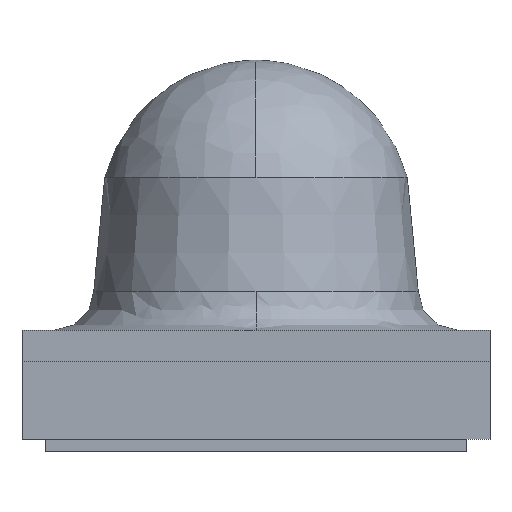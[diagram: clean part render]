
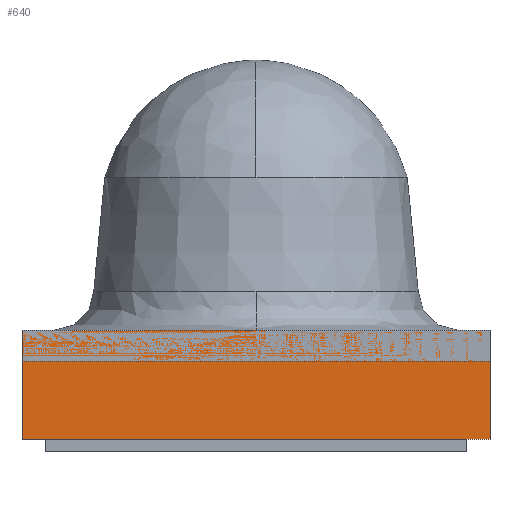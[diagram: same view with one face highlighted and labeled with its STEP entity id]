
A CAD part, left-side view. The second image highlights one B-rep face of the part: STEP entity #640.
In plain terms, the highlighted planar face has unit normal (-1, 0, 0).
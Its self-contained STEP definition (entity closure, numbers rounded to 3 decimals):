
#65 = CARTESIAN_POINT ( 'NONE',  ( -1.5, -1.5, -0.15 ) ) ;
#69 = DIRECTION ( 'NONE',  ( 0., 1., 0. ) ) ;
#83 = DIRECTION ( 'NONE',  ( 0., 0., -1. ) ) ;
#108 = CARTESIAN_POINT ( 'NONE',  ( -1.5, 0., 0.2 ) ) ;
#161 = CARTESIAN_POINT ( 'NONE',  ( -1.5, 0., -0.5 ) ) ;
#163 = DIRECTION ( 'NONE',  ( 0., 1., 0. ) ) ;
#185 = EDGE_CURVE ( 'NONE', #1071, #1055, #309, .T. ) ;
#190 = EDGE_CURVE ( 'NONE', #1042, #1071, #367, .T. ) ;
#197 = EDGE_CURVE ( 'NONE', #1042, #1029, #287, .T. ) ;
#204 = EDGE_CURVE ( 'NONE', #1029, #1055, #381, .T. ) ;
#245 = DIRECTION ( 'NONE',  ( 0., 0., -1. ) ) ;
#246 = CARTESIAN_POINT ( 'NONE',  ( -1.5, 1.5, -0.15 ) ) ;
#279 = VECTOR ( 'NONE', #69, 1000. ) ;
#287 = LINE ( 'NONE', #108, #279 ) ;
#289 = VECTOR ( 'NONE', #83, 1000. ) ;
#305 = VECTOR ( 'NONE', #163, 1000. ) ;
#309 = LINE ( 'NONE', #161, #305 ) ;
#367 = LINE ( 'NONE', #65, #289 ) ;
#373 = VECTOR ( 'NONE', #245, 1000. ) ;
#381 = LINE ( 'NONE', #246, #373 ) ;
#392 = FACE_OUTER_BOUND ( 'NONE', #569, .T. ) ;
#508 = ORIENTED_EDGE ( 'NONE', *, *, #204, .T. ) ;
#532 = ORIENTED_EDGE ( 'NONE', *, *, #185, .F. ) ;
#569 = EDGE_LOOP ( 'NONE', ( #589, #584, #508, #532 ) ) ;
#584 = ORIENTED_EDGE ( 'NONE', *, *, #197, .T. ) ;
#589 = ORIENTED_EDGE ( 'NONE', *, *, #190, .F. ) ;
#640 = ADVANCED_FACE ( 'NONE', ( #392 ), #906, .F. ) ;
#748 = AXIS2_PLACEMENT_3D ( 'NONE', #905, #923, #924 ) ;
#905 = CARTESIAN_POINT ( 'NONE',  ( -1.5, -1.5, 0.2 ) ) ;
#906 = PLANE ( 'NONE',  #748 ) ;
#923 = DIRECTION ( 'NONE',  ( 1., 0., 0. ) ) ;
#924 = DIRECTION ( 'NONE',  ( 0., 0., -1. ) ) ;
#958 = CARTESIAN_POINT ( 'NONE',  ( -1.5, 1.5, 0.2 ) ) ;
#962 = CARTESIAN_POINT ( 'NONE',  ( -1.5, -1.5, 0.2 ) ) ;
#967 = CARTESIAN_POINT ( 'NONE',  ( -1.5, 1.5, -0.5 ) ) ;
#970 = CARTESIAN_POINT ( 'NONE',  ( -1.5, -1.5, -0.5 ) ) ;
#1029 = VERTEX_POINT ( 'NONE', #958 ) ;
#1042 = VERTEX_POINT ( 'NONE', #962 ) ;
#1055 = VERTEX_POINT ( 'NONE', #967 ) ;
#1071 = VERTEX_POINT ( 'NONE', #970 ) ;
